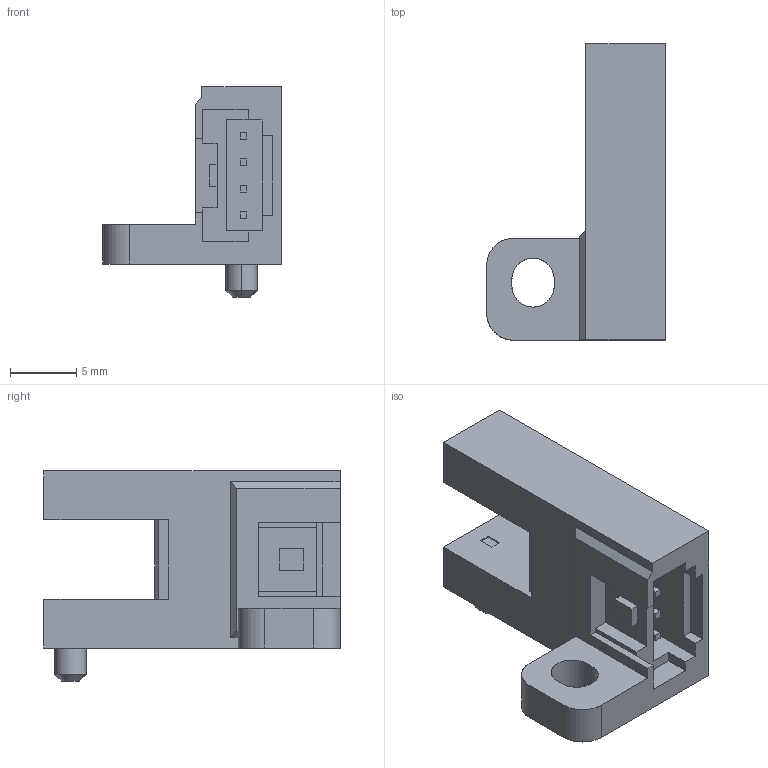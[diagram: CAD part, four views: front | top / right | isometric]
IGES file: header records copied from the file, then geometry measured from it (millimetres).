
Start section: SolidWorks IGES file using analytic representation for surfaces
Global section: file name: C:\catalog\pm-f65.IGS; native system: SolidWorks 2010; preprocessor: SolidWorks 2010; author: C0278; date: 150807.163651; units: millimetre
Bounding box: 13.5 x 22.4 x 15.9 mm (x, y, z)
Surface area: 1386.4 mm2 (no closed solid volume)
Topology: 0 solids, 0 shells, 109 faces, 706 edges, 706 vertices
Faces by surface type: bspline 101, revolution 8
